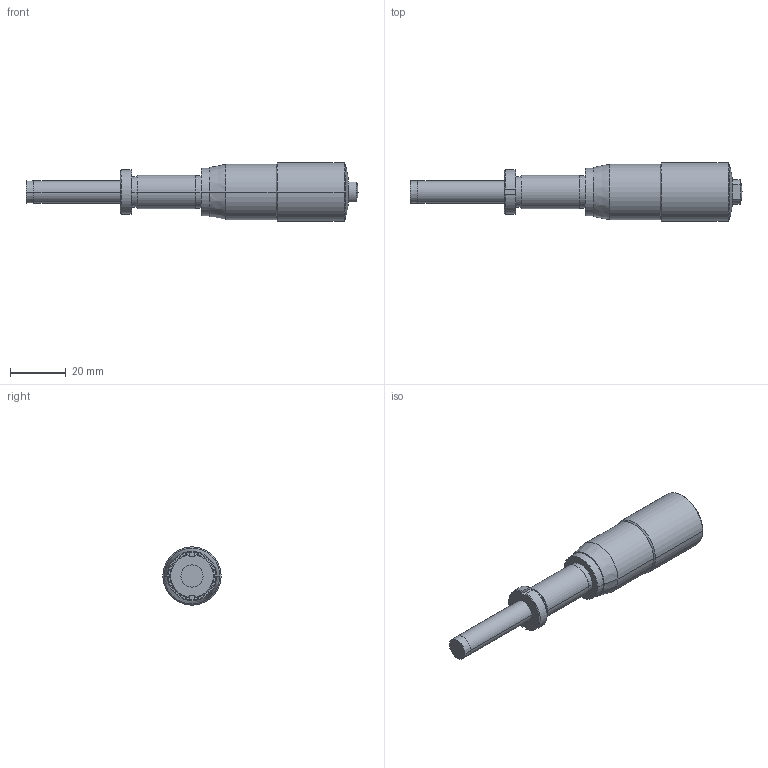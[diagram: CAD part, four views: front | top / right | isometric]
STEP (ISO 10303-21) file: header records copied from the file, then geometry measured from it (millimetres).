
FILE_DESCRIPTION(('Creo Elements/Direct Modeling STEP Export'),'2;1');
FILE_NAME('151-228-10_MHH2-25TA.stp','2022-09-26T13:01:46',(''),(''),'Creo Elements/Direct Modeling STEP processor for AP214 (Solid Model)','Creo Elements/Direct Modeling 18.1H 24-Oct-2015 (C) Parametric Technology GmbH','');
FILE_SCHEMA(('AUTOMOTIVE_DESIGN { 1 0 10303 214 1 1 1 1 }'));
Length unit declared in the file: millimetre
Products named in the file (1): 151-228_MHH2-25T_PRT.PRT
Bounding box: 119.5 x 21 x 21 mm (x, y, z)
Volume: 22282.9 mm3; surface area: 6179.8 mm2
Topology: 1 solids, 1 shells, 50 faces, 114 edges, 71 vertices
Faces by surface type: cylinder 18, plane 16, cone 14, sphere 2
Entity records: 1379 total; most frequent: CARTESIAN_POINT 260, ORIENTED_EDGE 224, DIRECTION 212, EDGE_CURVE 112, AXIS2_PLACEMENT_3D 81, VERTEX_POINT 71, EDGE_LOOP 57, FACE_OUTER_BOUND 50
